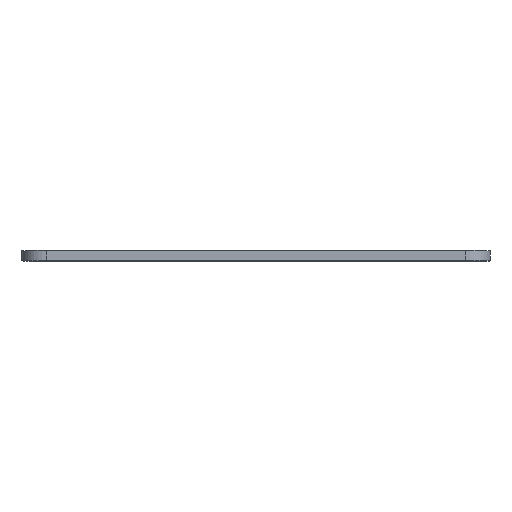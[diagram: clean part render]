
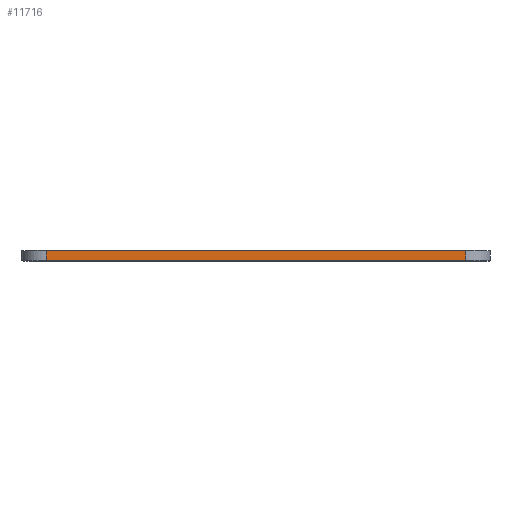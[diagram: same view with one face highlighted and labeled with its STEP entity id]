
A CAD part, top view. The second image highlights one B-rep face of the part: STEP entity #11716.
In plain terms, the highlighted planar face has unit normal (0, 0, 1).
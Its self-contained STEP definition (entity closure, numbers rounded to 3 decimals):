
#219=PLANE('',#12302);
#764=FACE_OUTER_BOUND('',#1333,.T.);
#1333=EDGE_LOOP('',(#8292,#8293,#8294,#8295));
#2101=LINE('',#15821,#3752);
#2103=LINE('',#15827,#3754);
#2104=LINE('',#15829,#3755);
#2105=LINE('',#15830,#3756);
#3752=VECTOR('',#12927,10.);
#3754=VECTOR('',#12933,10.);
#3755=VECTOR('',#12934,10.);
#3756=VECTOR('',#12935,10.);
#5454=VERTEX_POINT('',#15818);
#5455=VERTEX_POINT('',#15820);
#5457=VERTEX_POINT('',#15826);
#5458=VERTEX_POINT('',#15828);
#6588=EDGE_CURVE('',#5454,#5455,#2101,.T.);
#6591=EDGE_CURVE('',#5457,#5454,#2103,.T.);
#6592=EDGE_CURVE('',#5458,#5457,#2104,.T.);
#6593=EDGE_CURVE('',#5455,#5458,#2105,.T.);
#8292=ORIENTED_EDGE('',*,*,#6588,.F.);
#8293=ORIENTED_EDGE('',*,*,#6591,.F.);
#8294=ORIENTED_EDGE('',*,*,#6592,.F.);
#8295=ORIENTED_EDGE('',*,*,#6593,.F.);
#11716=ADVANCED_FACE('',(#764),#219,.F.);
#12302=AXIS2_PLACEMENT_3D('',#15825,#12931,#12932);
#12927=DIRECTION('',(0.,-1.,0.));
#12931=DIRECTION('center_axis',(0.,0.,
-1.));
#12932=DIRECTION('ref_axis',(-1.,0.,0.));
#12933=DIRECTION('',(1.,0.,0.));
#12934=DIRECTION('',(0.,1.,0.));
#12935=DIRECTION('',(-1.,0.,0.));
#15818=CARTESIAN_POINT('',(172.848,-29.066,102.956));
#15820=CARTESIAN_POINT('',(172.848,-31.066,102.956));
#15821=CARTESIAN_POINT('',(172.848,-30.066,102.956));
#15825=CARTESIAN_POINT('Origin',(177.748,-31.066,102.956));
#15826=CARTESIAN_POINT('',(89.017,-29.066,102.956));
#15827=CARTESIAN_POINT('',(154.399,-29.066,102.956));
#15828=CARTESIAN_POINT('',(89.017,-31.066,102.956));
#15829=CARTESIAN_POINT('',(89.017,-30.066,102.956));
#15830=CARTESIAN_POINT('',(154.399,-31.066,102.956));
